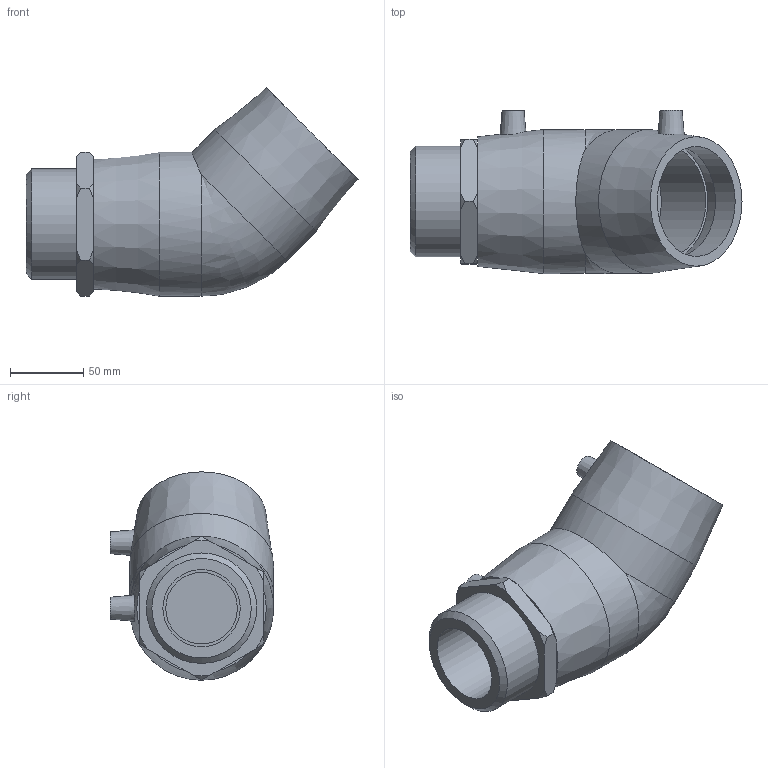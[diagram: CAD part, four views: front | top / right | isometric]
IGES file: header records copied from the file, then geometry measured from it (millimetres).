
Global section: file name: 492604075025.ipt; native system: Autodesk Inventor 2015; preprocessor: unknown; author: KIM; date: 20200202.122433; units: millimetre
Bounding box: 226 x 111 x 141.83 mm (x, y, z)
Volume: 844637.9 mm3; surface area: 126338.7 mm2
Topology: 1 solids, 2 shells, 59 faces, 142 edges, 97 vertices
Faces by surface type: plane 24, cone 17, revolution 10, cylinder 7, bspline 1
Full cylindrical faces by diameter (mm): 4 x2, 75 x2, 75.184 x1, 98 x2
